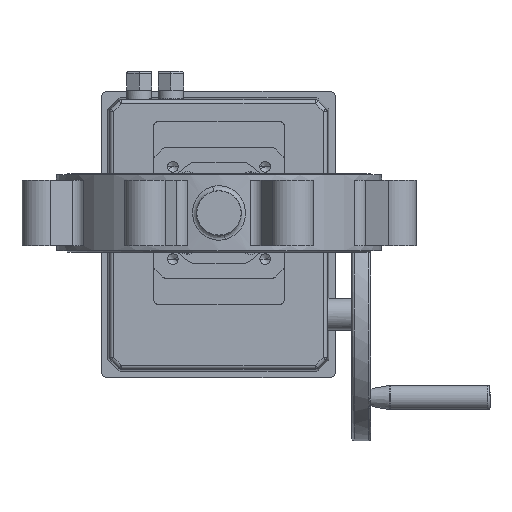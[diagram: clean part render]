
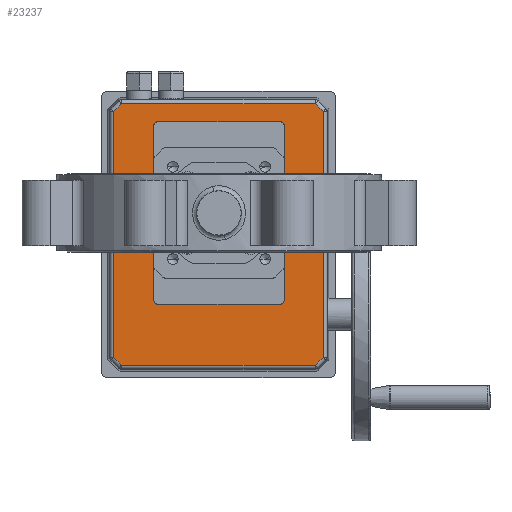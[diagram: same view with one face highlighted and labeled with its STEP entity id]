
A CAD part, front view. The second image highlights one B-rep face of the part: STEP entity #23237.
In plain terms, the highlighted planar face has unit normal (0, -1, 0).
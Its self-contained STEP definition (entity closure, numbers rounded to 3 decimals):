
#37 = DIRECTION ( 'NONE',  ( 0., 1., 0. ) ) ;
#555 = CARTESIAN_POINT ( 'NONE',  ( 0., -50., -83.357 ) ) ;
#640 = LINE ( 'NONE', #2899, #17818 ) ;
#679 = VECTOR ( 'NONE', #9076, 1000. ) ;
#873 = AXIS2_PLACEMENT_3D ( 'NONE', #6191, #6606, #4211 ) ;
#934 = EDGE_CURVE ( 'NONE', #6520, #20717, #640, .T. ) ;
#1005 = LINE ( 'NONE', #5955, #5887 ) ;
#1224 = CARTESIAN_POINT ( 'NONE',  ( 69., -50., 48.5 ) ) ;
#1309 = VECTOR ( 'NONE', #22472, 1000. ) ;
#1470 = EDGE_CURVE ( 'NONE', #1697, #15494, #10643, .T. ) ;
#1697 = VERTEX_POINT ( 'NONE', #17431 ) ;
#1892 = EDGE_CURVE ( 'NONE', #4222, #2595, #1005, .T. ) ;
#2031 = DIRECTION ( 'NONE',  ( 0., 0., 1. ) ) ;
#2172 = DIRECTION ( 'NONE',  ( -1., 0., 0. ) ) ;
#2307 = FACE_BOUND ( 'NONE', #4738, .T. ) ;
#2325 = LINE ( 'NONE', #19857, #2337 ) ;
#2337 = VECTOR ( 'NONE', #19596, 1000. ) ;
#2436 = EDGE_CURVE ( 'NONE', #15494, #3201, #7842, .T. ) ;
#2595 = VERTEX_POINT ( 'NONE', #19023 ) ;
#2899 = CARTESIAN_POINT ( 'NONE',  ( 98.717, -50., -98.717 ) ) ;
#3097 = DIRECTION ( 'NONE',  ( 1., 0., 0. ) ) ;
#3201 = VERTEX_POINT ( 'NONE', #3502 ) ;
#3348 = DIRECTION ( 'NONE',  ( 0., 0., 1. ) ) ;
#3502 = CARTESIAN_POINT ( 'NONE',  ( -80.077, -50., -83.357 ) ) ;
#3554 = EDGE_LOOP ( 'NONE', ( #14049, #10029, #19359, #6240, #5088, #23136, #21365, #7765 ) ) ;
#3722 = ORIENTED_EDGE ( 'NONE', *, *, #24356, .T. ) ;
#3855 = CARTESIAN_POINT ( 'NONE',  ( -69., -50., 51.5 ) ) ;
#4211 = DIRECTION ( 'NONE',  ( 0., 0., 1. ) ) ;
#4222 = VERTEX_POINT ( 'NONE', #9314 ) ;
#4290 = LINE ( 'NONE', #21421, #10664 ) ;
#4384 = EDGE_CURVE ( 'NONE', #20717, #24014, #18084, .T. ) ;
#4623 = DIRECTION ( 'NONE',  ( 0.707, 0., 0.707 ) ) ;
#4738 = EDGE_LOOP ( 'NONE', ( #5711, #13491, #25123, #13685, #20720, #24201, #6432, #3722 ) ) ;
#4901 = EDGE_CURVE ( 'NONE', #6265, #21170, #2325, .T. ) ;
#4937 = LINE ( 'NONE', #555, #1309 ) ;
#5088 = ORIENTED_EDGE ( 'NONE', *, *, #4384, .T. ) ;
#5106 = CARTESIAN_POINT ( 'NONE',  ( 0., -50., -51.5 ) ) ;
#5241 = CARTESIAN_POINT ( 'NONE',  ( -87.205, -50., 75.228 ) ) ;
#5243 = AXIS2_PLACEMENT_3D ( 'NONE', #10527, #37, #2031 ) ;
#5321 = DIRECTION ( 'NONE',  ( 0., 0., -1. ) ) ;
#5711 = ORIENTED_EDGE ( 'NONE', *, *, #21973, .F. ) ;
#5887 = VECTOR ( 'NONE', #27151, 1000. ) ;
#5955 = CARTESIAN_POINT ( 'NONE',  ( 72., -50., 0. ) ) ;
#6191 = CARTESIAN_POINT ( 'NONE',  ( 69., -50., -48.5 ) ) ;
#6240 = ORIENTED_EDGE ( 'NONE', *, *, #934, .T. ) ;
#6265 = VERTEX_POINT ( 'NONE', #3855 ) ;
#6395 = VECTOR ( 'NONE', #19292, 1000. ) ;
#6432 = ORIENTED_EDGE ( 'NONE', *, *, #8352, .F. ) ;
#6520 = VERTEX_POINT ( 'NONE', #7152 ) ;
#6606 = DIRECTION ( 'NONE',  ( 0., 1., 0. ) ) ;
#6811 = LINE ( 'NONE', #5106, #11293 ) ;
#7113 = VECTOR ( 'NONE', #20569, 1000. ) ;
#7152 = CARTESIAN_POINT ( 'NONE',  ( 114.077, -50., -83.357 ) ) ;
#7662 = CARTESIAN_POINT ( 'NONE',  ( -72., -50., -48.5 ) ) ;
#7765 = ORIENTED_EDGE ( 'NONE', *, *, #10914, .T. ) ;
#7812 = EDGE_CURVE ( 'NONE', #2595, #16943, #17147, .T. ) ;
#7842 = LINE ( 'NONE', #18742, #7113 ) ;
#8080 = DIRECTION ( 'NONE',  ( 0., 1., 0. ) ) ;
#8352 = EDGE_CURVE ( 'NONE', #19166, #16943, #6811, .T. ) ;
#8600 = CARTESIAN_POINT ( 'NONE',  ( 120.357, -50., -77.077 ) ) ;
#9046 = AXIS2_PLACEMENT_3D ( 'NONE', #1224, #27087, #3348 ) ;
#9076 = DIRECTION ( 'NONE',  ( -0.707, 0., -0.707 ) ) ;
#9303 = LINE ( 'NONE', #13961, #20587 ) ;
#9314 = CARTESIAN_POINT ( 'NONE',  ( 72., -50., 48.5 ) ) ;
#9485 = VERTEX_POINT ( 'NONE', #17841 ) ;
#10029 = ORIENTED_EDGE ( 'NONE', *, *, #2436, .T. ) ;
#10527 = CARTESIAN_POINT ( 'NONE',  ( 0., -50., 0. ) ) ;
#10643 = LINE ( 'NONE', #14632, #6395 ) ;
#10664 = VECTOR ( 'NONE', #2172, 1000. ) ;
#10798 = FACE_OUTER_BOUND ( 'NONE', #3554, .T. ) ;
#10914 = EDGE_CURVE ( 'NONE', #21219, #1697, #21942, .T. ) ;
#10947 = PLANE ( 'NONE',  #5243 ) ;
#11230 = VERTEX_POINT ( 'NONE', #18052 ) ;
#11293 = VECTOR ( 'NONE', #3097, 1000. ) ;
#11947 = VECTOR ( 'NONE', #20630, 1000. ) ;
#12108 = CARTESIAN_POINT ( 'NONE',  ( -86.357, -50., -77.077 ) ) ;
#12910 = CARTESIAN_POINT ( 'NONE',  ( -69., -50., -51.5 ) ) ;
#13491 = ORIENTED_EDGE ( 'NONE', *, *, #18136, .T. ) ;
#13685 = ORIENTED_EDGE ( 'NONE', *, *, #15489, .T. ) ;
#13895 = CARTESIAN_POINT ( 'NONE',  ( -69., -50., -48.5 ) ) ;
#13961 = CARTESIAN_POINT ( 'NONE',  ( -72., -50., 0. ) ) ;
#14046 = DIRECTION ( 'NONE',  ( 0., 0., 1. ) ) ;
#14049 = ORIENTED_EDGE ( 'NONE', *, *, #1470, .T. ) ;
#14360 = AXIS2_PLACEMENT_3D ( 'NONE', #13895, #26600, #14046 ) ;
#14620 = CARTESIAN_POINT ( 'NONE',  ( -69., -50., 48.5 ) ) ;
#14632 = CARTESIAN_POINT ( 'NONE',  ( -86.357, -50., -78.277 ) ) ;
#15069 = EDGE_CURVE ( 'NONE', #3201, #6520, #4937, .T. ) ;
#15489 = EDGE_CURVE ( 'NONE', #21170, #4222, #24815, .T. ) ;
#15494 = VERTEX_POINT ( 'NONE', #12108 ) ;
#15931 = LINE ( 'NONE', #22278, #25748 ) ;
#16302 = CARTESIAN_POINT ( 'NONE',  ( -80.077, -50., 82.357 ) ) ;
#16417 = CARTESIAN_POINT ( 'NONE',  ( 69., -50., -51.5 ) ) ;
#16532 = CARTESIAN_POINT ( 'NONE',  ( 120.357, -50., 0. ) ) ;
#16943 = VERTEX_POINT ( 'NONE', #16417 ) ;
#17147 = CIRCLE ( 'NONE', #873, 3. ) ;
#17431 = CARTESIAN_POINT ( 'NONE',  ( -86.357, -50., 76.077 ) ) ;
#17818 = VECTOR ( 'NONE', #4623, 1000. ) ;
#17841 = CARTESIAN_POINT ( 'NONE',  ( -72., -50., 48.5 ) ) ;
#17946 = CIRCLE ( 'NONE', #14360, 3. ) ;
#18052 = CARTESIAN_POINT ( 'NONE',  ( 114.077, -50., 82.357 ) ) ;
#18084 = LINE ( 'NONE', #16532, #11947 ) ;
#18136 = EDGE_CURVE ( 'NONE', #9485, #6265, #24365, .T. ) ;
#18186 = DIRECTION ( 'NONE',  ( -0.707, 0., 0.707 ) ) ;
#18689 = EDGE_CURVE ( 'NONE', #24014, #11230, #15931, .T. ) ;
#18742 = CARTESIAN_POINT ( 'NONE',  ( -81.717, -50., -81.717 ) ) ;
#19023 = CARTESIAN_POINT ( 'NONE',  ( 72., -50., -48.5 ) ) ;
#19166 = VERTEX_POINT ( 'NONE', #12910 ) ;
#19292 = DIRECTION ( 'NONE',  ( 0., 0., -1. ) ) ;
#19359 = ORIENTED_EDGE ( 'NONE', *, *, #15069, .T. ) ;
#19432 = AXIS2_PLACEMENT_3D ( 'NONE', #14620, #8080, #27302 ) ;
#19596 = DIRECTION ( 'NONE',  ( 1., 0., 0. ) ) ;
#19857 = CARTESIAN_POINT ( 'NONE',  ( 0., -50., 51.5 ) ) ;
#20569 = DIRECTION ( 'NONE',  ( 0.707, 0., -0.707 ) ) ;
#20587 = VECTOR ( 'NONE', #5321, 1000. ) ;
#20630 = DIRECTION ( 'NONE',  ( 0., 0., 1. ) ) ;
#20717 = VERTEX_POINT ( 'NONE', #8600 ) ;
#20720 = ORIENTED_EDGE ( 'NONE', *, *, #1892, .T. ) ;
#21170 = VERTEX_POINT ( 'NONE', #21244 ) ;
#21219 = VERTEX_POINT ( 'NONE', #16302 ) ;
#21244 = CARTESIAN_POINT ( 'NONE',  ( 69., -50., 51.5 ) ) ;
#21280 = VERTEX_POINT ( 'NONE', #7662 ) ;
#21365 = ORIENTED_EDGE ( 'NONE', *, *, #23233, .T. ) ;
#21421 = CARTESIAN_POINT ( 'NONE',  ( -81.277, -50., 82.357 ) ) ;
#21942 = LINE ( 'NONE', #5241, #679 ) ;
#21973 = EDGE_CURVE ( 'NONE', #9485, #21280, #9303, .T. ) ;
#22278 = CARTESIAN_POINT ( 'NONE',  ( 98.217, -50., 98.217 ) ) ;
#22472 = DIRECTION ( 'NONE',  ( 1., 0., 0. ) ) ;
#23136 = ORIENTED_EDGE ( 'NONE', *, *, #18689, .T. ) ;
#23233 = EDGE_CURVE ( 'NONE', #11230, #21219, #4290, .T. ) ;
#23237 = ADVANCED_FACE ( 'NONE', ( #10798, #2307 ), #10947, .F. ) ;
#24014 = VERTEX_POINT ( 'NONE', #26637 ) ;
#24201 = ORIENTED_EDGE ( 'NONE', *, *, #7812, .T. ) ;
#24356 = EDGE_CURVE ( 'NONE', #19166, #21280, #17946, .T. ) ;
#24365 = CIRCLE ( 'NONE', #19432, 3. ) ;
#24815 = CIRCLE ( 'NONE', #9046, 3. ) ;
#25123 = ORIENTED_EDGE ( 'NONE', *, *, #4901, .T. ) ;
#25748 = VECTOR ( 'NONE', #18186, 1000. ) ;
#26600 = DIRECTION ( 'NONE',  ( 0., 1., 0. ) ) ;
#26637 = CARTESIAN_POINT ( 'NONE',  ( 120.357, -50., 76.077 ) ) ;
#27087 = DIRECTION ( 'NONE',  ( 0., 1., 0. ) ) ;
#27151 = DIRECTION ( 'NONE',  ( 0., 0., -1. ) ) ;
#27302 = DIRECTION ( 'NONE',  ( 0., 0., 1. ) ) ;
